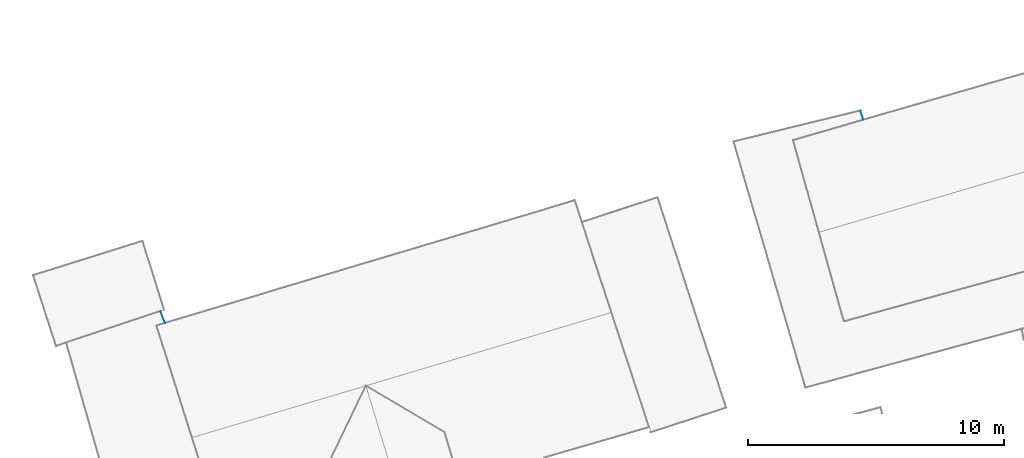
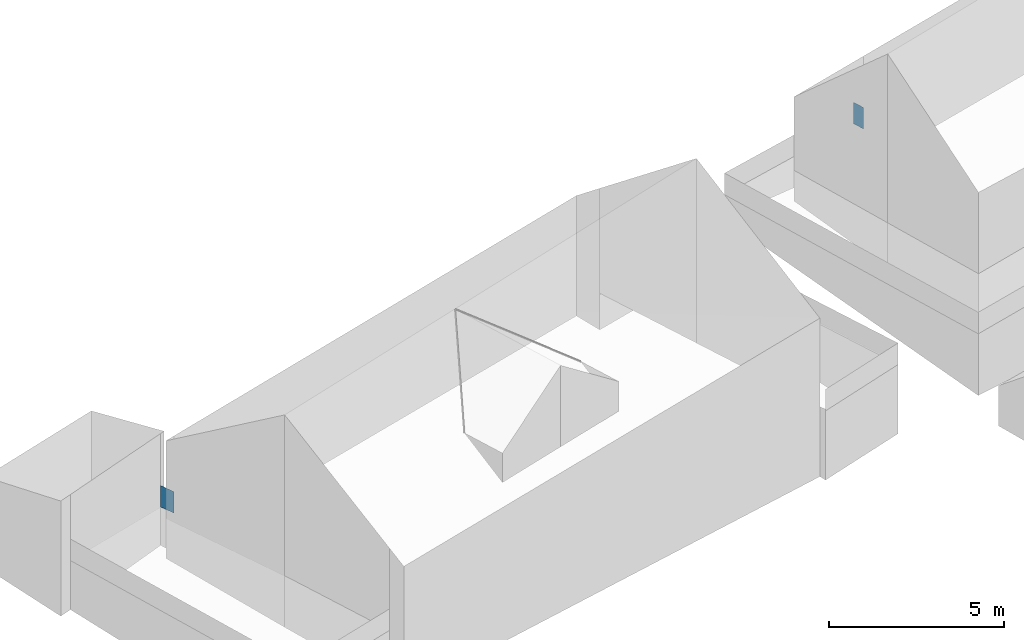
# Not in any storey, part 47 of 57: 4 walls.
"""IFC2X3 building model written with IfcOpenShell, lengths in metres."""

from ifc_helpers import new_model, entity, si_unit, converted_unit, frame, origin, place, context, subcontext, project, spatial, face_set, surface_model, element, save


model = new_model("IFC2X3")

# Units and contexts
model_context = context("Model", 3, precision=1e-05, world=origin())
body_context = subcontext(model_context, "Body", "Model", "MODEL_VIEW")
ifc_project = project(units=[converted_unit("PLANEANGLEUNIT", "DEGREE", entity("IfcRatioMeasure", 0.0174532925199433), si_unit("PLANEANGLEUNIT", "RADIAN"), dimensions=[0, 0, 0, 0, 0, 0, 0]), si_unit("AREAUNIT", "SQUARE_METRE"), si_unit("LENGTHUNIT", "METRE")], contexts=[model_context])

# Site, building
site_placement = place(None, origin())
site = spatial("IfcSite", under=ifc_project, at=site_placement, Name="_site", CompositionType="ELEMENT")
building_1_placement = place(site_placement, origin())
building_1 = spatial("IfcBuilding", under=site, at=building_1_placement, Name="_building", CompositionType="ELEMENT")

# Walls
for number, where, name in (
    (1, (0.0, 0.0, 0.0), "Wall"),
    (2, (0.0, 0.0, 0.0), "Wall"),
):
    element("IfcWall", number, at=place(building_1_placement, frame(where)), inside=building_1, Name=name, context=body_context, shape_type="SurfaceModel", body=[
        surface_model("IfcFaceBasedSurfaceModel", [(119.717, 142.168, 119.18), (119.537, 142.633, 119.18), (119.537, 142.633, 119.93), (119.717, 142.168, 119.93)], [face_set([[[0, 1, 2, 3]]])]),
    ])

# Building
building_2_placement = place(site_placement, origin())
building_2 = spatial("IfcBuilding", under=site, at=building_2_placement, Name="_building", CompositionType="ELEMENT")

# Walls
for number, where, name in (
    (3, (0.0, 0.0, 0.0), "Wall"),
    (4, (0.0, 0.0, 0.0), "Wall"),
):
    element("IfcWall", number, at=place(building_2_placement, frame(where)), inside=building_2, Name=name, context=body_context, shape_type="SurfaceModel", body=[
        surface_model("IfcFaceBasedSurfaceModel", [(147.0, 150.104, 118.198), (146.887, 150.468, 118.198), (146.887, 150.468, 118.948), (147.0, 150.104, 118.948)], [face_set([[[0, 1, 2, 3]]])]),
    ])

save(model, "model.ifc")
